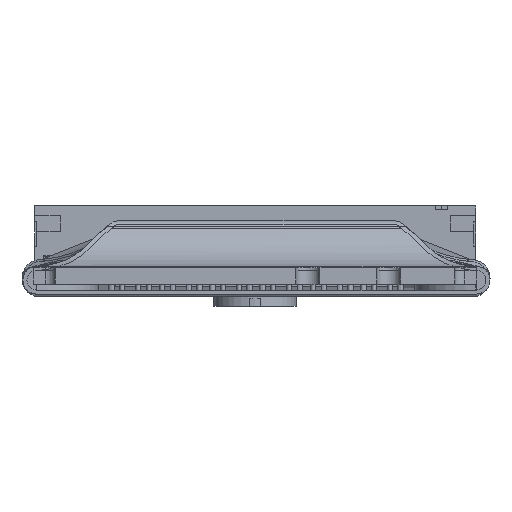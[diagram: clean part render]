
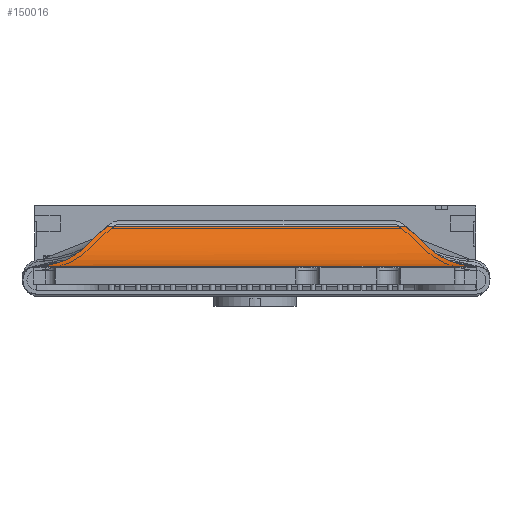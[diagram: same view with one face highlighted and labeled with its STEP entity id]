
A CAD part, front view. The second image highlights one B-rep face of the part: STEP entity #150016.
In plain terms, the highlighted cylindrical face has radius 3.495 mm (diameter 6.99 mm), a partial arc.
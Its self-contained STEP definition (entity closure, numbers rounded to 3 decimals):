
#149597 = VERTEX_POINT('',#149598);
#149598 = CARTESIAN_POINT('',(11.594,-6.134,1.385));
#149605 = EDGE_CURVE('',#149606,#149597,#149608,.T.);
#149606 = VERTEX_POINT('',#149607);
#149607 = CARTESIAN_POINT('',(-10.225,-6.134,
    1.385));
#149608 = LINE('',#149609,#149610);
#149609 = CARTESIAN_POINT('',(8.749,-6.134,1.385));
#149610 = VECTOR('',#149611,1.);
#149611 = DIRECTION('',(1.,0.,0.));
#149849 = VERTEX_POINT('',#149850);
#149850 = CARTESIAN_POINT('',(-6.733,-3.035,
    3.355));
#149863 = EDGE_CURVE('',#149849,#149864,#149866,.T.);
#149864 = VERTEX_POINT('',#149865);
#149865 = CARTESIAN_POINT('',(8.102,-3.035,
    3.355));
#149866 = LINE('',#149867,#149868);
#149867 = CARTESIAN_POINT('',(0.,-3.035,
    3.355));
#149868 = VECTOR('',#149869,1.);
#149869 = DIRECTION('',(1.,-0.,0.));
#149909 = VERTEX_POINT('',#149910);
#149910 = CARTESIAN_POINT('',(-7.714,-3.669,
    2.448));
#149916 = EDGE_CURVE('',#149606,#149909,#149917,.T.);
#149917 = B_SPLINE_CURVE_WITH_KNOTS('',3,(#149918,#149919,#149920,
    #149921,#149922,#149923,#149924,#149925,#149926,#149927,#149928,
    #149929,#149930,#149931,#149932,#149933,#149934,#149935,#149936,
    #149937,#149938,#149939,#149940,#149941,#149942,#149943,#149944,
    #149945,#149946,#149947),.UNSPECIFIED.,.F.,.F.,(4,2,2,2,2,2,2,2,2,2,
    2,2,2,2,4),(0.,0.009,0.019,
    0.04,0.061,0.156,0.25,
    0.628,1.006,1.542,2.077,
    2.613,3.148,3.769,4.389),
  .UNSPECIFIED.);
#149918 = CARTESIAN_POINT('',(-10.225,-6.134,
    1.385));
#149919 = CARTESIAN_POINT('',(-10.222,-6.134,
    1.385));
#149920 = CARTESIAN_POINT('',(-10.219,-6.134,
    1.385));
#149921 = CARTESIAN_POINT('',(-10.212,-6.132,
    1.385));
#149922 = CARTESIAN_POINT('',(-10.209,-6.131,
    1.385));
#149923 = CARTESIAN_POINT('',(-10.2,-6.128,
    1.385));
#149924 = CARTESIAN_POINT('',(-10.194,-6.124,
    1.385));
#149925 = CARTESIAN_POINT('',(-10.182,-6.117,
    1.385));
#149926 = CARTESIAN_POINT('',(-10.176,-6.113,
    1.385));
#149927 = CARTESIAN_POINT('',(-10.145,-6.089,
    1.386));
#149928 = CARTESIAN_POINT('',(-10.122,-6.068,
    1.386));
#149929 = CARTESIAN_POINT('',(-10.077,-6.025,
    1.388));
#149930 = CARTESIAN_POINT('',(-10.054,-6.003,
    1.389));
#149931 = CARTESIAN_POINT('',(-9.941,-5.893,
    1.395));
#149932 = CARTESIAN_POINT('',(-9.853,-5.805,
    1.404));
#149933 = CARTESIAN_POINT('',(-9.675,-5.628,
    1.427));
#149934 = CARTESIAN_POINT('',(-9.587,-5.54,
    1.443));
#149935 = CARTESIAN_POINT('',(-9.374,-5.328,
    1.488));
#149936 = CARTESIAN_POINT('',(-9.251,-5.205,
    1.521));
#149937 = CARTESIAN_POINT('',(-9.008,-4.962,
    1.601));
#149938 = CARTESIAN_POINT('',(-8.888,-4.842,
    1.648));
#149939 = CARTESIAN_POINT('',(-8.651,-4.605,
    1.757));
#149940 = CARTESIAN_POINT('',(-8.534,-4.489,
    1.818));
#149941 = CARTESIAN_POINT('',(-8.305,-4.259,
    1.957));
#149942 = CARTESIAN_POINT('',(-8.192,-4.146,
    2.034));
#149943 = CARTESIAN_POINT('',(-7.953,-3.907,
    2.22));
#149944 = CARTESIAN_POINT('',(-7.83,-3.784,
    2.329));
#149945 = CARTESIAN_POINT('',(-7.595,-3.55,
    2.572));
#149946 = CARTESIAN_POINT('',(-7.484,-3.438,
    2.704));
#149947 = CARTESIAN_POINT('',(-7.38,-3.334,2.851));
#149962 = EDGE_CURVE('',#149963,#149597,#149965,.T.);
#149963 = VERTEX_POINT('',#149964);
#149964 = CARTESIAN_POINT('',(9.084,-3.669,
    2.448));
#149965 = B_SPLINE_CURVE_WITH_KNOTS('',3,(#149966,#149967,#149968,
    #149969,#149970,#149971,#149972,#149973,#149974,#149975,#149976,
    #149977,#149978,#149979,#149980,#149981,#149982,#149983,#149984,
    #149985,#149986,#149987,#149988,#149989,#149990,#149991,#149992,
    #149993,#149994,#149995,#149996,#149997,#149998,#149999,#150000,
    #150001,#150002,#150003),.UNSPECIFIED.,.F.,.F.,(4,2,2,2,2,2,2,2,2,2,
    2,2,2,2,2,2,2,2,4),(0.,0.446,0.892,1.338,
    1.785,2.31,2.835,3.36,
    3.885,3.988,4.091,4.147,
    4.203,4.247,4.291,4.303,
    4.315,4.323,4.331),.UNSPECIFIED.);
#149966 = CARTESIAN_POINT('',(8.749,-3.334,2.851));
#149967 = CARTESIAN_POINT('',(8.825,-3.41,
    2.744));
#149968 = CARTESIAN_POINT('',(8.905,-3.49,
    2.644));
#149969 = CARTESIAN_POINT('',(9.07,-3.656,
    2.459));
#149970 = CARTESIAN_POINT('',(9.156,-3.742,
    2.373));
#149971 = CARTESIAN_POINT('',(9.333,-3.918,
    2.212));
#149972 = CARTESIAN_POINT('',(9.424,-4.01,
    2.138));
#149973 = CARTESIAN_POINT('',(9.612,-4.197,
    1.999));
#149974 = CARTESIAN_POINT('',(9.708,-4.293,
    1.935));
#149975 = CARTESIAN_POINT('',(9.922,-4.507,
    1.808));
#149976 = CARTESIAN_POINT('',(10.039,-4.625,
    1.747));
#149977 = CARTESIAN_POINT('',(10.276,-4.861,
    1.64));
#149978 = CARTESIAN_POINT('',(10.396,-4.981,
    1.594));
#149979 = CARTESIAN_POINT('',(10.638,-5.223,
    1.516));
#149980 = CARTESIAN_POINT('',(10.76,-5.344,
    1.484));
#149981 = CARTESIAN_POINT('',(11.006,-5.59,
    1.432));
#149982 = CARTESIAN_POINT('',(11.13,-5.714,
    1.414));
#149983 = CARTESIAN_POINT('',(11.281,-5.863,
    1.399));
#149984 = CARTESIAN_POINT('',(11.306,-5.888,
    1.397));
#149985 = CARTESIAN_POINT('',(11.355,-5.936,
    1.393));
#149986 = CARTESIAN_POINT('',(11.38,-5.961,
    1.391));
#149987 = CARTESIAN_POINT('',(11.418,-5.998,
    1.389));
#149988 = CARTESIAN_POINT('',(11.432,-6.011,
    1.389));
#149989 = CARTESIAN_POINT('',(11.459,-6.037,
    1.388));
#149990 = CARTESIAN_POINT('',(11.473,-6.05,
    1.387));
#149991 = CARTESIAN_POINT('',(11.498,-6.073,
    1.386));
#149992 = CARTESIAN_POINT('',(11.509,-6.083,
    1.386));
#149993 = CARTESIAN_POINT('',(11.532,-6.103,
    1.386));
#149994 = CARTESIAN_POINT('',(11.543,-6.112,
    1.385));
#149995 = CARTESIAN_POINT('',(11.559,-6.122,
    1.385));
#149996 = CARTESIAN_POINT('',(11.563,-6.124,
    1.385));
#149997 = CARTESIAN_POINT('',(11.57,-6.128,
    1.385));
#149998 = CARTESIAN_POINT('',(11.574,-6.13,
    1.385));
#149999 = CARTESIAN_POINT('',(11.58,-6.132,
    1.385));
#150000 = CARTESIAN_POINT('',(11.583,-6.133,
    1.385));
#150001 = CARTESIAN_POINT('',(11.588,-6.134,
    1.385));
#150002 = CARTESIAN_POINT('',(11.591,-6.134,1.385));
#150003 = CARTESIAN_POINT('',(11.594,-6.134,1.385));
#150016 = ADVANCED_FACE('',(#150017),#150041,.F.);
#150017 = FACE_BOUND('',#150018,.T.);
#150018 = EDGE_LOOP('',(#150019,#150020,#150029,#150030,#150031,#150032)
  );
#150019 = ORIENTED_EDGE('',*,*,#149863,.F.);
#150020 = ORIENTED_EDGE('',*,*,#150021,.T.);
#150021 = EDGE_CURVE('',#149849,#149909,#150022,.T.);
#150022 = B_SPLINE_CURVE_WITH_KNOTS('',3,(#150023,#150024,#150025,
    #150026,#150027,#150028),.UNSPECIFIED.,.F.,.F.,(4,2,4),(0.,
    0.74,1.479),.UNSPECIFIED.);
#150023 = CARTESIAN_POINT('',(-6.733,-3.035,
    3.355));
#150024 = CARTESIAN_POINT('',(-6.916,-3.108,
    3.203));
#150025 = CARTESIAN_POINT('',(-7.09,-3.196,
    3.051));
#150026 = CARTESIAN_POINT('',(-7.418,-3.405,
    2.747));
#150027 = CARTESIAN_POINT('',(-7.572,-3.526,
    2.596));
#150028 = CARTESIAN_POINT('',(-7.714,-3.669,
    2.448));
#150029 = ORIENTED_EDGE('',*,*,#149916,.F.);
#150030 = ORIENTED_EDGE('',*,*,#149605,.T.);
#150031 = ORIENTED_EDGE('',*,*,#149962,.F.);
#150032 = ORIENTED_EDGE('',*,*,#150033,.T.);
#150033 = EDGE_CURVE('',#149963,#149864,#150034,.T.);
#150034 = B_SPLINE_CURVE_WITH_KNOTS('',3,(#150035,#150036,#150037,
    #150038,#150039,#150040),.UNSPECIFIED.,.F.,.F.,(4,2,4),(0.,
    0.74,1.479),.UNSPECIFIED.);
#150035 = CARTESIAN_POINT('',(9.084,-3.669,
    2.448));
#150036 = CARTESIAN_POINT('',(8.941,-3.526,
    2.596));
#150037 = CARTESIAN_POINT('',(8.787,-3.405,
    2.747));
#150038 = CARTESIAN_POINT('',(8.459,-3.196,
    3.051));
#150039 = CARTESIAN_POINT('',(8.286,-3.108,
    3.203));
#150040 = CARTESIAN_POINT('',(8.102,-3.035,
    3.355));
#150041 = CYLINDRICAL_SURFACE('',#150042,3.495);
#150042 = AXIS2_PLACEMENT_3D('',#150043,#150044,#150045);
#150043 = CARTESIAN_POINT('',(0.,-6.18,
    4.88));
#150044 = DIRECTION('',(1.,-0.,-0.));
#150045 = DIRECTION('',(-0.,0.,-1.));
